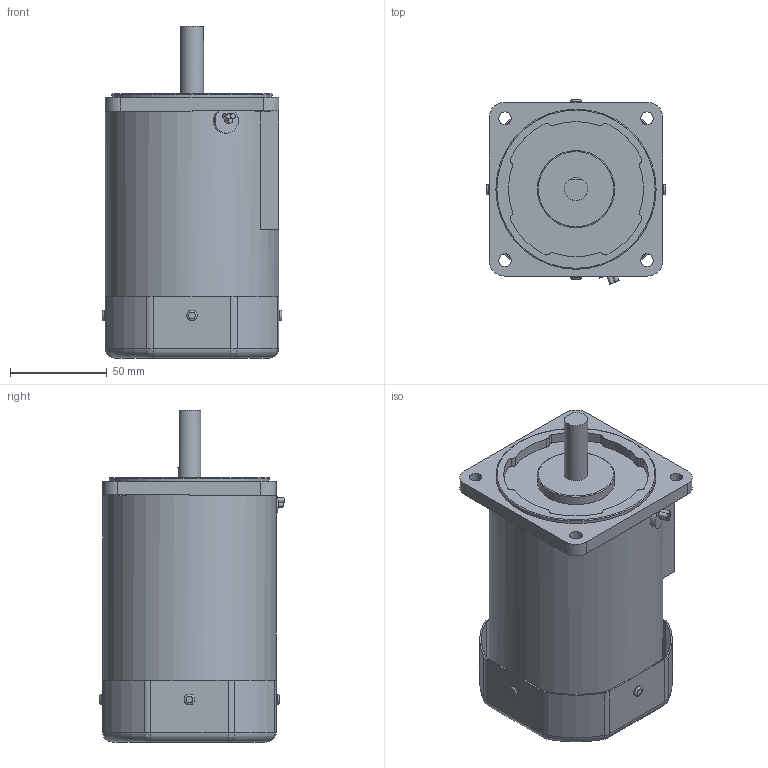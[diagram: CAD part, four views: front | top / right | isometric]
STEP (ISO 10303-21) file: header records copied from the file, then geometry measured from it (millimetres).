
FILE_DESCRIPTION((''),'2;1');
FILE_NAME('E:\2공장-도면\3D\표준형 3D(민규)\step file\K9IS120Fㅁ.stp','2014-11-12T09:09:45',('AHN'),(''),'Autodesk Inventor 2012','Autodesk Inventor 2012','');
FILE_SCHEMA(('CONFIG_CONTROL_DESIGN'));
Length unit declared in the file: millimetre
Products named in the file (1): K9IS90Fㅁ
Bounding box: 93 x 95.71 x 172 mm (x, y, z)
Volume: 791205.4 mm3; surface area: 83578.5 mm2
Topology: 1 solids, 7 shells, 266 faces, 629 edges, 377 vertices
Faces by surface type: cylinder 131, plane 81, torus 46, bspline 8
Full cylindrical faces by diameter (mm): 5.5 x4, 6.5 x4, 8 x4, 12 x1, 40 x1, 83 x1, 90 x1
Entity records: 8416 total; most frequent: CARTESIAN_POINT 2281, DIRECTION 1325, ORIENTED_EDGE 1206, EDGE_CURVE 603, AXIS2_PLACEMENT_3D 528, VERTEX_POINT 373, EDGE_LOOP 333, VECTOR 269
